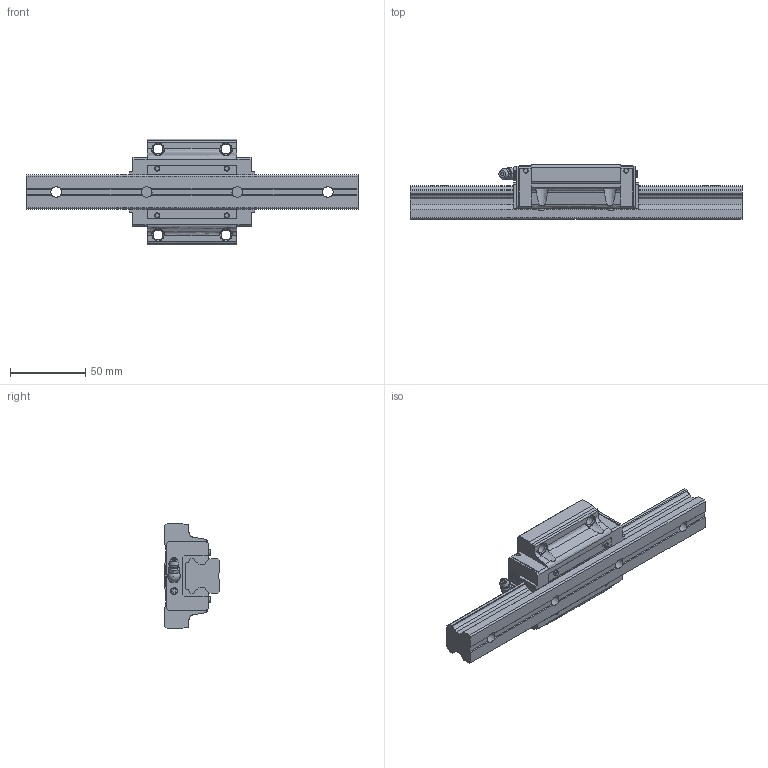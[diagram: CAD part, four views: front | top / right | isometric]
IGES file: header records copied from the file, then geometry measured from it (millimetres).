
Start section: Data from Parasolid IGES Translator 26.0.171, Copyright(c) 2006 Siemens PLM Software. All Rights Reserved.
Global section: file name: HSR25M2A1SS-220L_G20_0_B-M6F_68-45_0_0_0.igs; native system: By Siemens PLM Incorporated; preprocessor: XPlus GENERIC/IGES 26.0.171; author: Noname; organization: Noname; date: 20240523.085553; units: millimetre
Bounding box: 220 x 36 x 70 mm (x, y, z)
Surface area: 45621.4 mm2 (no closed solid volume)
Topology: 0 solids, 0 shells, 325 faces, 1726 edges, 1640 vertices
Faces by surface type: extrusion 230, revolution 95
